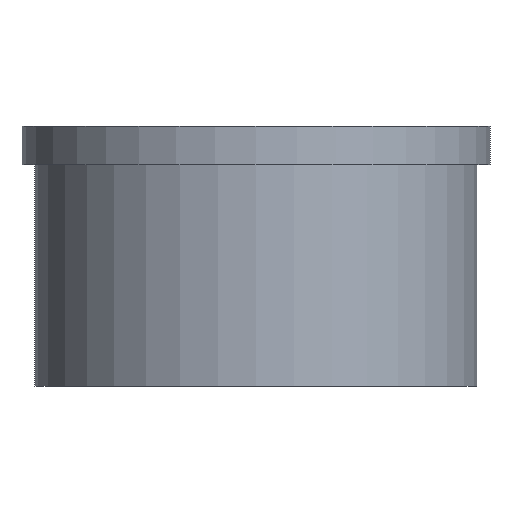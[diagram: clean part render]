
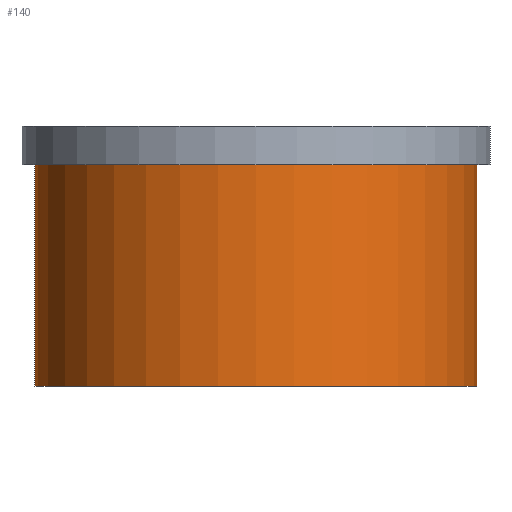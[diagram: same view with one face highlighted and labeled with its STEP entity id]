
A CAD part, front view. The second image highlights one B-rep face of the part: STEP entity #140.
In plain terms, the highlighted cylindrical face has radius 17 mm (diameter 34 mm), a partial arc.
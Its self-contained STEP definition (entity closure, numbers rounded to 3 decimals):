
#101=CYLINDRICAL_SURFACE('',#313,17.);
#107=LINE('',#441,#113);
#108=LINE('',#442,#114);
#113=VECTOR('',#383,1.);
#114=VECTOR('',#384,1.);
#127=FACE_OUTER_BOUND('',#165,.T.);
#140=ADVANCED_FACE('',(#127),#101,.T.);
#165=EDGE_LOOP('',(#211,#212,#213,#214));
#211=ORIENTED_EDGE('',*,*,#259,.T.);
#212=ORIENTED_EDGE('',*,*,#236,.F.);
#213=ORIENTED_EDGE('',*,*,#260,.F.);
#214=ORIENTED_EDGE('',*,*,#257,.T.);
#219=VERTEX_POINT('',#391);
#220=VERTEX_POINT('',#392);
#233=VERTEX_POINT('',#437);
#234=VERTEX_POINT('',#438);
#236=EDGE_CURVE('',#220,#219,#262,.T.);
#257=EDGE_CURVE('',#233,#234,#279,.T.);
#259=EDGE_CURVE('',#234,#219,#107,.T.);
#260=EDGE_CURVE('',#233,#220,#108,.T.);
#262=CIRCLE('',#283,17.);
#279=CIRCLE('',#310,17.);
#283=AXIS2_PLACEMENT_3D('',#393,#319,#320);
#310=AXIS2_PLACEMENT_3D('',#436,#377,#378);
#313=AXIS2_PLACEMENT_3D('',#443,#385,#386);
#319=DIRECTION('',(0.,0.,-1.));
#320=DIRECTION('',(0.,1.,0.));
#377=DIRECTION('',(0.,0.,-1.));
#378=DIRECTION('',(0.,1.,0.));
#383=DIRECTION('',(0.,0.,-1.));
#384=DIRECTION('',(0.,0.,-1.));
#385=DIRECTION('',(0.,0.,-1.));
#386=DIRECTION('',(0.,-1.,0.));
#391=CARTESIAN_POINT('',(-17.,0.,-17.));
#392=CARTESIAN_POINT('',(17.,0.,-17.));
#393=CARTESIAN_POINT('',(0.,0.,-17.));
#436=CARTESIAN_POINT('',(0.,0.,0.));
#437=CARTESIAN_POINT('',(17.,0.,0.));
#438=CARTESIAN_POINT('',(-17.,0.,0.));
#441=CARTESIAN_POINT('',(-17.,0.,-17.));
#442=CARTESIAN_POINT('',(17.,0.,-17.));
#443=CARTESIAN_POINT('',(0.,0.,0.));
